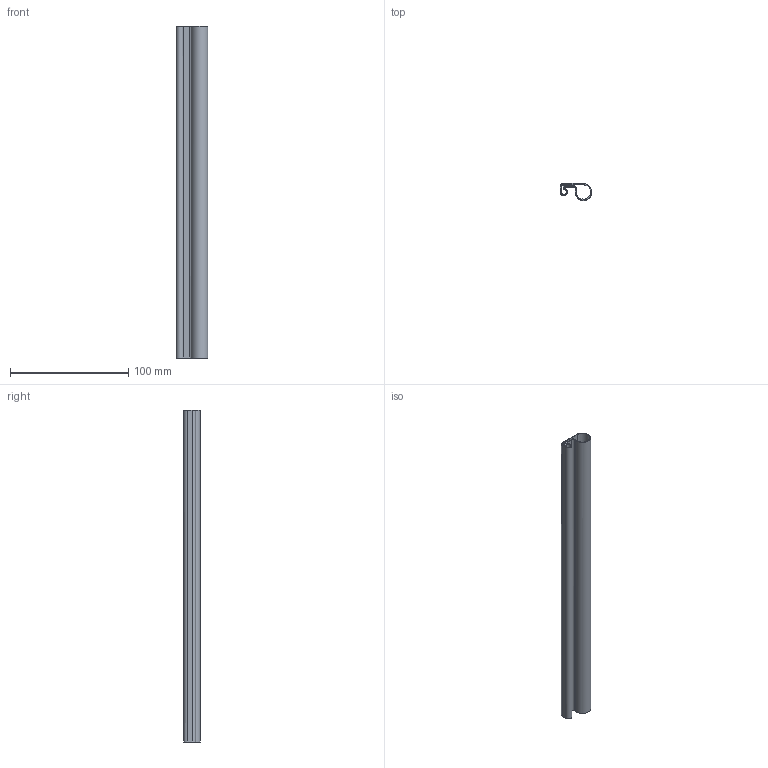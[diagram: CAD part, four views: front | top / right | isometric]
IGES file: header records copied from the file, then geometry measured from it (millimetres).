
Global section: file name: roleta_280x10mm_endpart; native system: Autodesk Inventor 2015; preprocessor: unknown; author: uidn2323; date: 20160121.103452; units: millimetre
Bounding box: 26.69 x 14.03 x 280.4 mm (x, y, z)
Volume: 18976.3 mm3; surface area: 47591.9 mm2
Topology: 1 solids, 1 shells, 22 faces, 60 edges, 40 vertices
Faces by surface type: bspline 22
